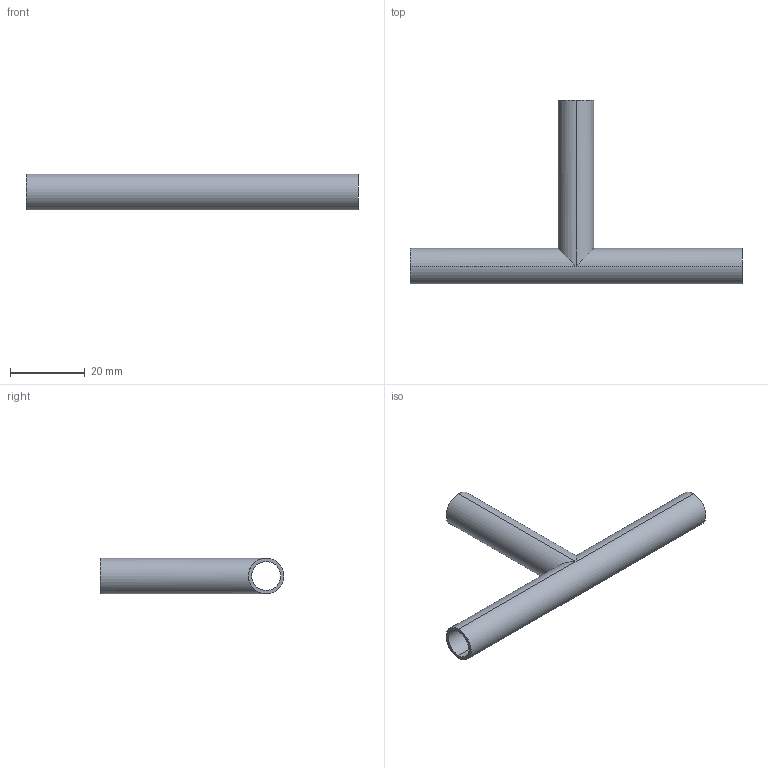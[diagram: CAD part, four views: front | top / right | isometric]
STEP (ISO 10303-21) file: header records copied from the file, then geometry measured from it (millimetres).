
FILE_DESCRIPTION (( 'STEP AP214' ), '1' );
FILE_NAME ('TE7WWW6L.375-...STEP', '2016-05-23T06:19:12', ( 'eran' ), ( '' ), 'SwSTEP 2.0', 'SolidWorks 2016', '' );
FILE_SCHEMA (( 'AUTOMOTIVE_DESIGN' ));
Length unit declared in the file: millimetre
Products named in the file (1): TE7WWW6L.375-..
Bounding box: 89 x 49.27 x 9.53 mm (x, y, z)
Volume: 3091.7 mm3; surface area: 7018 mm2
Topology: 1 solids, 1 shells, 13 faces, 28 edges, 16 vertices
Faces by surface type: cylinder 10, plane 3
Entity records: 392 total; most frequent: CARTESIAN_POINT 70, DIRECTION 64, ORIENTED_EDGE 56, EDGE_CURVE 28, AXIS2_PLACEMENT_3D 26, VERTEX_POINT 16, EDGE_LOOP 16, FACE_OUTER_BOUND 13
